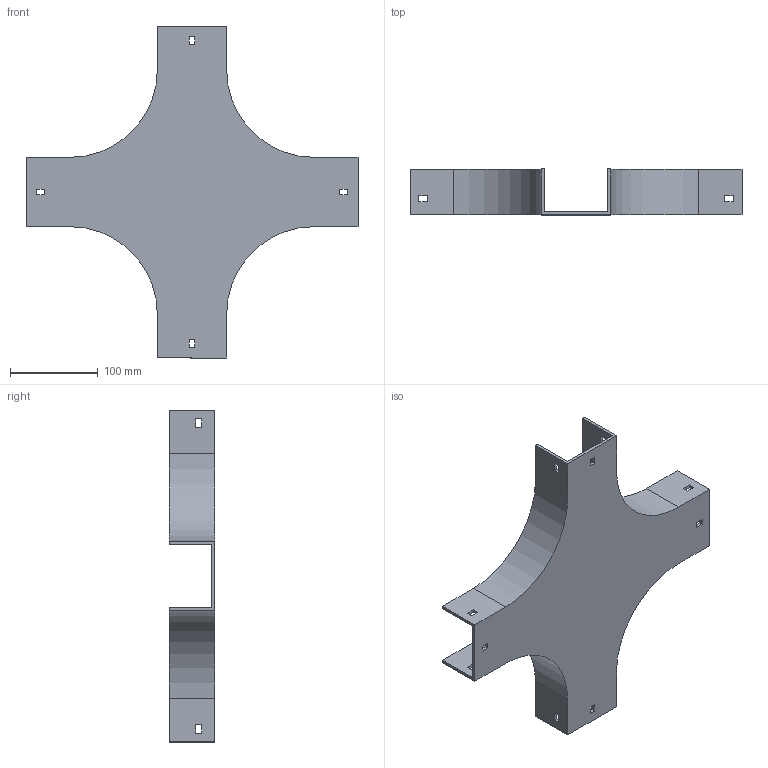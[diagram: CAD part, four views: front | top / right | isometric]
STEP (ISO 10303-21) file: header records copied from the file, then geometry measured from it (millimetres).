
FILE_DESCRIPTION (( 'STEP AP214' ), '1' );
FILE_NAME ('17B1B075.step', '2025-02-21T09:57:00', ( '' ), ( '' ), 'SwSTEP 2.0', 'SolidWorks 2023', '' );
FILE_SCHEMA (( 'AUTOMOTIVE_DESIGN' ));
Length unit declared in the file: millimetre
Products named in the file (1): 17B1B075
Bounding box: 379 x 52 x 379 mm (x, y, z)
Volume: 391432.3 mm3; surface area: 231124.7 mm2
Topology: 1 solids, 1 shells, 82 faces, 240 edges, 160 vertices
Faces by surface type: plane 74, cylinder 8
Entity records: 2751 total; most frequent: CARTESIAN_POINT 483, ORIENTED_EDGE 480, DIRECTION 422, EDGE_CURVE 240, LINE 224, VECTOR 224, VERTEX_POINT 160, EDGE_LOOP 106
